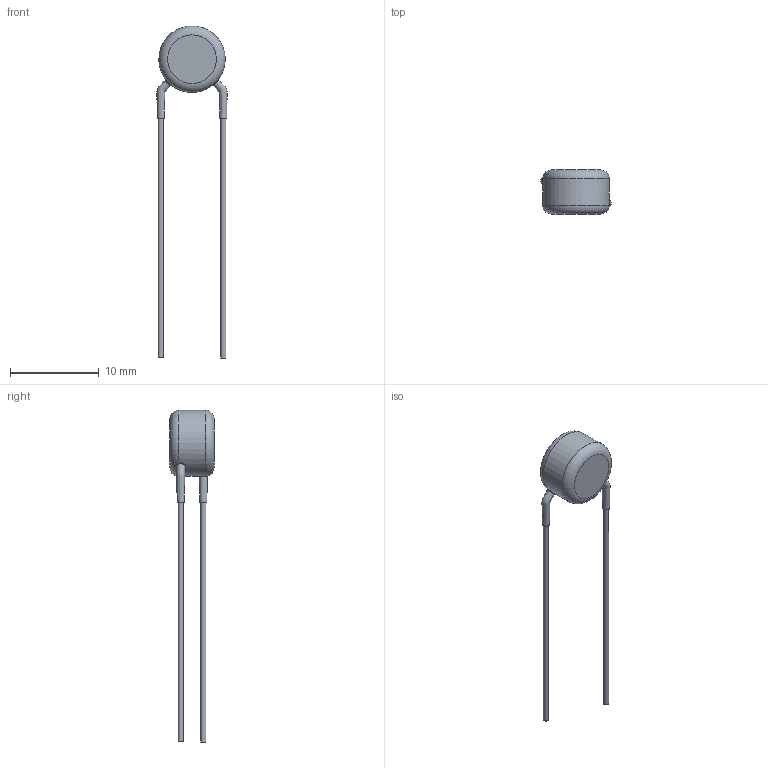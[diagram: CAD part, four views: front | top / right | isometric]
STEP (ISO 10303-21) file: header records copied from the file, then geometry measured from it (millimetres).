
FILE_DESCRIPTION(/* description */ (''),/* implementation_level */ '2;1');
FILE_NAME(/* name */ 'I:\Marketing\M6t1\3D-Models\Zchng-Werk-3\Upload for homepage\BCC neu\AY2 Straight\Step\AY2471K29Y5SS63L7.stp',/* time_stamp */ '2023-07-13T14:07:30+02:00',/* author */ ('truediger'),/* organization */ (''),/* preprocessor_version */ 'ST-DEVELOPER v18',/* originating_system */ 'Autodesk Inventor 2020',/* authorisation */ '');
FILE_SCHEMA (('AUTOMOTIVE_DESIGN { 1 0 10303 214 3 1 1 }'));
Length unit declared in the file: millimetre
Products named in the file (1): Bauteil2
Bounding box: 7.93 x 5 x 37.5 mm (x, y, z)
Volume: 232.1 mm3; surface area: 310.8 mm2
Topology: 1 solids, 1 shells, 19 faces, 43 edges, 28 vertices
Faces by surface type: bspline 8, plane 6, cylinder 3, torus 2
Full cylindrical faces by diameter (mm): 0.6 x2, 7.5 x1
Entity records: 1738 total; most frequent: CARTESIAN_POINT 1277, ORIENTED_EDGE 86, DIRECTION 75, EDGE_CURVE 43, AXIS2_PLACEMENT_3D 36, VERTEX_POINT 28, CIRCLE 24, EDGE_LOOP 21
